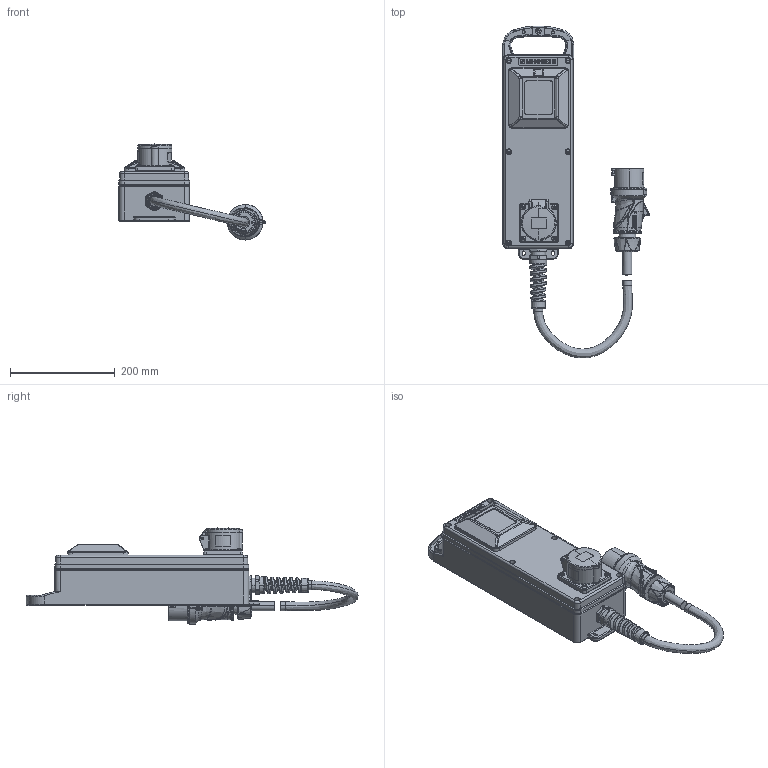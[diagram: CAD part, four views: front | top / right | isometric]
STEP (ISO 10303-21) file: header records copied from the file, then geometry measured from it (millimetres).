
FILE_DESCRIPTION((''),'2;1');
FILE_NAME('2514001-2_ASM_1_ASM','2026-03-20T11:49:41',('kremer'),('MENNEKES'),'CREO PARAMETRIC BY PTC INC, 2024153','CREO PARAMETRIC BY PTC INC, 2024153','');
FILE_SCHEMA(('AUTOMOTIVE_DESIGN { 1 0 10303 214 1 1 1 1 }'));
Products named in the file (11): EVERGUM_L_SCHWARZ_AF0_1; EINBAURAHMEN_IOT_1; ZAEHLER_4TE_WAAGERECHT_1; REG_1TE_BLIND_1; KABELVERSCHR_KSS_M25_SCHWARZ_1; FL75X75_CEE_16_5_44_ROT_1; KABEL_EGL_SCHWARZ_1_1; KABEL_EGL_SCHWARZ_1_2; KABEL_EGL_SCHWARZ_1_ASM; 13522_1; 2514001-2_ASM_1_ASM
Assembly tree (10 placements, depth 3):
  2514001-2_ASM_1_ASM
    EVERGUM_L_SCHWARZ_AF0_1
    EINBAURAHMEN_IOT_1
    ZAEHLER_4TE_WAAGERECHT_1
    REG_1TE_BLIND_1
    KABELVERSCHR_KSS_M25_SCHWARZ_1
    FL75X75_CEE_16_5_44_ROT_1
    KABEL_EGL_SCHWARZ_1_ASM
      KABEL_EGL_SCHWARZ_1_1
      KABEL_EGL_SCHWARZ_1_2
    13522_1
Bounding box: 278.95 x 633.49 x 183.18 mm (x, y, z)
Volume: 5759589.3 mm3; surface area: 440750.1 mm2
Topology: 8 solids, 8 shells, 5544 faces, 14950 edges, 9533 vertices
Faces by surface type: plane 2096, cylinder 1279, bspline 1095, torus 467, extrusion 266, cone 263, sphere 78
Entity records: 333139 total; most frequent: CARTESIAN_POINT 111251, ORIENTED_EDGE 29712, DIRECTION 21854, PRESENTATION_STYLE_ASSIGNMENT 20178, STYLED_ITEM 15091, CURVE_STYLE 15083, EDGE_CURVE 14856, VERTEX_POINT 9533
